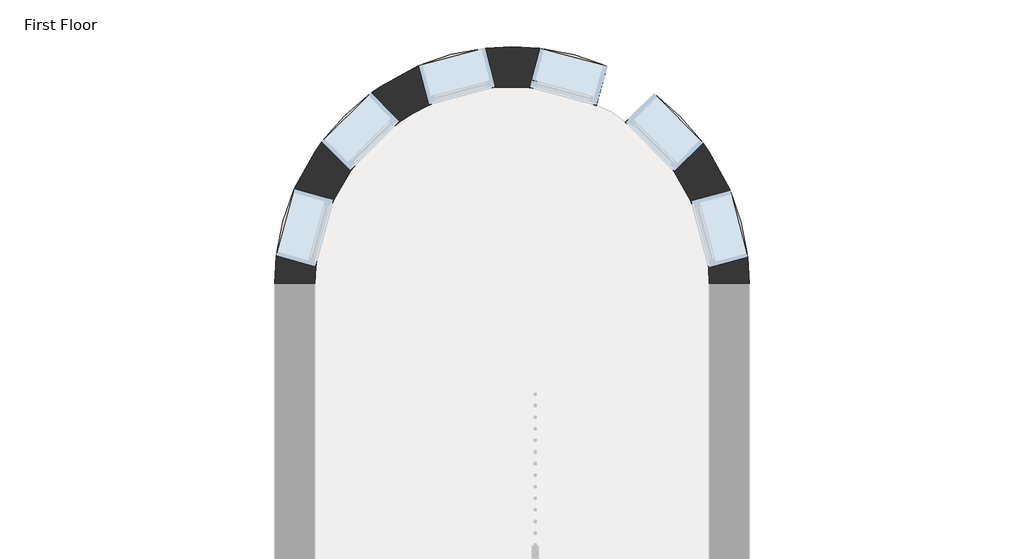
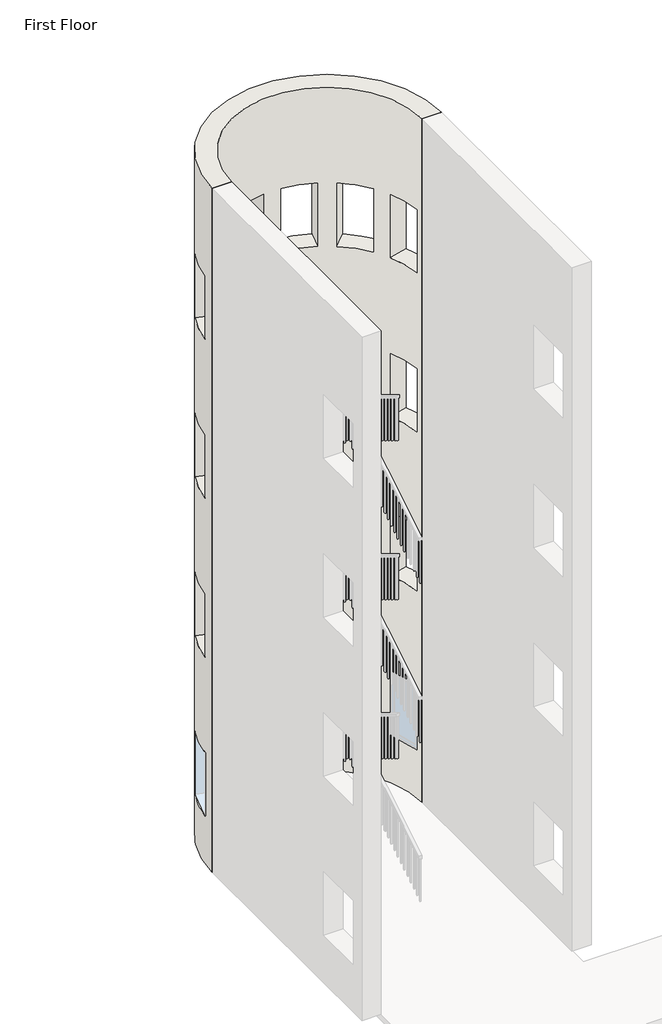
# One storey, part 2 of 5: 1 wall.
"""IFC4 building model written with IfcOpenShell, lengths in millimetres."""

from ifc_helpers import new_model, si_unit, frame, origin, place, context, project, spatial, polyline, circle_curve, element, save
from ifc_brep_helpers import plane_surface, cylinder_surface, revolved_surface, advanced_brep

model = new_model("IFC4")

# Units and contexts
model_context = context("Model", 3, world=origin())
ifc_project = project(units=[si_unit("LENGTHUNIT", "METRE", prefix="MILLI")], contexts=[model_context])

# Site, building, storey
site = spatial("IfcSite", under=ifc_project)
building = spatial("IfcBuilding", under=site)
storey = spatial("IfcBuildingStorey", under=building, Name="First Floor", Elevation=0.0)

# Wall
placement = place(None, origin())
element("IfcWall", 1, ObjectType="Exterior - Brick on Mtl. Stud", at=placement, inside=storey, context=model_context, shape_type="AdvancedBrep", body=[
    advanced_brep(
    [(-4164.4024687, 9592.7758812, 13106.4), (-8326.8274687, 9592.7758812, 13106.4), (-7974.4024687, 9592.7758812, 13106.4), (-4516.8274687, 9592.7758812, 13106.4), (-8326.8274687, 9592.7758812, 0.0), (-4164.4024687, 9592.7758812, 0.0), (-4516.8274687, 9592.7758812, 0.0), (-7974.4024687, 9592.7758812, 0.0), (-8312.3878938, 9837.5107303, 914.4), (-8152.818084, 10425.8555575, 914.4), (-8152.818084, 10425.8555575, 2133.6), (-8312.3878938, 9837.5107303, 2133.6), (-7913.1254012, 10838.1089402, 2133.6), (-7913.1254012, 10838.1089402, 914.4), (-7480.7614786, 11267.8456019, 914.4), (-7480.7614786, 11267.8456019, 2133.6), (-7067.0548348, 11505.0211627, 2133.6), (-7067.0548348, 11505.0211627, 914.4), (-6477.7483633, 11661.0020674, 914.4), (-6477.7483633, 11661.0020674, 2133.6), (-6000.8801197, 11659.5488063, 2133.6), (-6000.8801197, 11659.5488063, 914.4), (-5412.5352924, 11499.9789965, 914.4), (-5412.5352924, 11499.9789965, 2133.6), (-5000.2819097, 11260.2863136, 2133.6), (-5000.2819097, 11260.2863136, 914.4), (-4570.545248, 10827.922391, 914.4), (-4570.545248, 10827.922391, 2133.6), (-4333.3696872, 10414.2157472, 2133.6), (-4333.3696872, 10414.2157472, 914.4), (-4177.3887825, 9824.9092757, 914.4), (-4177.3887825, 9824.9092757, 2133.6), (-4333.3696872, 10414.2157472, 11277.6), (-4333.3696872, 10414.2157472, 10058.4), (-4177.3887825, 9824.9092757, 10058.4), (-4177.3887825, 9824.9092757, 11277.6), (-5000.2819097, 11260.2863136, 11277.6), (-5000.2819097, 11260.2863136, 10058.4), (-4570.545248, 10827.922391, 10058.4), (-4570.545248, 10827.922391, 11277.6), (-6000.8801197, 11659.5488063, 11277.6), (-6000.8801197, 11659.5488063, 10058.4), (-5412.5352924, 11499.9789965, 10058.4), (-5412.5352924, 11499.9789965, 11277.6), (-7067.0548348, 11505.0211627, 11277.6), (-7067.0548348, 11505.0211627, 10058.4), (-6477.7483633, 11661.0020674, 10058.4), (-6477.7483633, 11661.0020674, 11277.6), (-7913.1254012, 10838.1089402, 11277.6), (-7913.1254012, 10838.1089402, 10058.4), (-7480.7614786, 11267.8456019, 10058.4), (-7480.7614786, 11267.8456019, 11277.6), (-8312.3878938, 9837.5107303, 11277.6), (-8312.3878938, 9837.5107303, 10058.4), (-8152.818084, 10425.8555575, 10058.4), (-8152.818084, 10425.8555575, 11277.6), (-4333.3696872, 10414.2157472, 5181.6), (-4333.3696872, 10414.2157472, 3962.4), (-4177.3887825, 9824.9092757, 3962.4), (-4177.3887825, 9824.9092757, 5181.6), (-5000.2819097, 11260.2863136, 5181.6), (-5000.2819097, 11260.2863136, 3962.4), (-4570.545248, 10827.922391, 3962.4), (-4570.545248, 10827.922391, 5181.6), (-6000.8801197, 11659.5488063, 5181.6), (-6000.8801197, 11659.5488063, 3962.4), (-5412.5352924, 11499.9789965, 3962.4), (-5412.5352924, 11499.9789965, 5181.6), (-7067.0548348, 11505.0211627, 5181.6), (-7067.0548348, 11505.0211627, 3962.4), (-6477.7483633, 11661.0020674, 3962.4), (-6477.7483633, 11661.0020674, 5181.6), (-7913.1254012, 10838.1089402, 5181.6), (-7913.1254012, 10838.1089402, 3962.4), (-7480.7614786, 11267.8456019, 3962.4), (-7480.7614786, 11267.8456019, 5181.6), (-8312.3878938, 9837.5107303, 5181.6), (-8312.3878938, 9837.5107303, 3962.4), (-8152.818084, 10425.8555575, 3962.4), (-8152.818084, 10425.8555575, 5181.6), (-4333.3696872, 10414.2157472, 8229.6), (-4333.3696872, 10414.2157472, 7010.4), (-4177.3887825, 9824.9092757, 7010.4), (-4177.3887825, 9824.9092757, 8229.6), (-5000.2819097, 11260.2863136, 8229.6), (-5000.2819097, 11260.2863136, 7010.4), (-4570.545248, 10827.922391, 7010.4), (-4570.545248, 10827.922391, 8229.6), (-6000.8801197, 11659.5488063, 8229.6), (-6000.8801197, 11659.5488063, 7010.4), (-5412.5352924, 11499.9789965, 7010.4), (-5412.5352924, 11499.9789965, 8229.6), (-7067.0548348, 11505.0211627, 8229.6), (-7067.0548348, 11505.0211627, 7010.4), (-6477.7483633, 11661.0020674, 7010.4), (-6477.7483633, 11661.0020674, 8229.6), (-7913.1254012, 10838.1089402, 8229.6), (-7913.1254012, 10838.1089402, 7010.4), (-7480.7614786, 11267.8456019, 7010.4), (-7480.7614786, 11267.8456019, 8229.6), (-8312.3878938, 9837.5107303, 8229.6), (-8312.3878938, 9837.5107303, 7010.4), (-8152.818084, 10425.8555575, 7010.4), (-8152.818084, 10425.8555575, 8229.6), (-7808.2019473, 10332.3893982, 914.4), (-7967.7717571, 9744.0445709, 914.4), (-7967.7717571, 9744.0445709, 2133.6), (-7808.2019473, 10332.3893982, 2133.6), (-7661.4121519, 10584.8568034, 914.4), (-7661.4121519, 10584.8568034, 2133.6), (-7229.0482293, 11014.5934652, 2133.6), (-7229.0482293, 11014.5934652, 914.4), (-6975.6908348, 11159.8417541, 914.4), (-6975.6908348, 11159.8417541, 2133.6), (-6386.3843633, 11315.8226588, 2133.6), (-6386.3843633, 11315.8226588, 914.4), (-6094.346279, 11314.9326695, 914.4), (-6094.346279, 11314.9326695, 2133.6), (-5506.0014517, 11155.3628598, 2133.6), (-5506.0014517, 11155.3628598, 914.4), (-5253.5340465, 11008.5730643, 914.4), (-5253.5340465, 11008.5730643, 2133.6), (-4823.7973847, 10576.2091417, 2133.6), (-4823.7973847, 10576.2091417, 914.4), (-4678.5490959, 10322.8517473, 914.4), (-4678.5490959, 10322.8517473, 2133.6), (-4522.5681912, 9733.5452757, 2133.6), (-4522.5681912, 9733.5452757, 914.4), (-4678.5490959, 10322.8517473, 11277.6), (-4522.5681912, 9733.5452757, 11277.6), (-4522.5681912, 9733.5452757, 10058.4), (-4678.5490959, 10322.8517473, 10058.4), (-5253.5340465, 11008.5730643, 11277.6), (-4823.7973847, 10576.2091417, 11277.6), (-4823.7973847, 10576.2091417, 10058.4), (-5253.5340465, 11008.5730643, 10058.4), (-6094.346279, 11314.9326695, 11277.6), (-5506.0014517, 11155.3628598, 11277.6), (-5506.0014517, 11155.3628598, 10058.4), (-6094.346279, 11314.9326695, 10058.4), (-6975.6908348, 11159.8417541, 11277.6), (-6386.3843633, 11315.8226588, 11277.6), (-6386.3843633, 11315.8226588, 10058.4), (-6975.6908348, 11159.8417541, 10058.4), (-7661.4121519, 10584.8568034, 11277.6), (-7229.0482293, 11014.5934652, 11277.6), (-7229.0482293, 11014.5934652, 10058.4), (-7661.4121519, 10584.8568034, 10058.4), (-7967.7717571, 9744.0445709, 11277.6), (-7808.2019473, 10332.3893982, 11277.6), (-7808.2019473, 10332.3893982, 10058.4), (-7967.7717571, 9744.0445709, 10058.4), (-4678.5490959, 10322.8517473, 5181.6), (-4522.5681912, 9733.5452757, 5181.6), (-4522.5681912, 9733.5452757, 3962.4), (-4678.5490959, 10322.8517473, 3962.4), (-5253.5340465, 11008.5730643, 5181.6), (-4823.7973847, 10576.2091417, 5181.6), (-4823.7973847, 10576.2091417, 3962.4), (-5253.5340465, 11008.5730643, 3962.4), (-6094.346279, 11314.9326695, 5181.6), (-5506.0014517, 11155.3628598, 5181.6), (-5506.0014517, 11155.3628598, 3962.4), (-6094.346279, 11314.9326695, 3962.4), (-6975.6908348, 11159.8417541, 5181.6), (-6386.3843633, 11315.8226588, 5181.6), (-6386.3843633, 11315.8226588, 3962.4), (-6975.6908348, 11159.8417541, 3962.4), (-7661.4121519, 10584.8568034, 5181.6), (-7229.0482293, 11014.5934652, 5181.6), (-7229.0482293, 11014.5934652, 3962.4), (-7661.4121519, 10584.8568034, 3962.4), (-7967.7717571, 9744.0445709, 5181.6), (-7808.2019473, 10332.3893982, 5181.6), (-7808.2019473, 10332.3893982, 3962.4), (-7967.7717571, 9744.0445709, 3962.4), (-4678.5490959, 10322.8517473, 8229.6), (-4522.5681912, 9733.5452757, 8229.6), (-4522.5681912, 9733.5452757, 7010.4), (-4678.5490959, 10322.8517473, 7010.4), (-5253.5340465, 11008.5730643, 8229.6), (-4823.7973847, 10576.2091417, 8229.6), (-4823.7973847, 10576.2091417, 7010.4), (-5253.5340465, 11008.5730643, 7010.4), (-6094.346279, 11314.9326695, 8229.6), (-5506.0014517, 11155.3628598, 8229.6), (-5506.0014517, 11155.3628598, 7010.4), (-6094.346279, 11314.9326695, 7010.4), (-6975.6908348, 11159.8417541, 8229.6), (-6386.3843633, 11315.8226588, 8229.6), (-6386.3843633, 11315.8226588, 7010.4), (-6975.6908348, 11159.8417541, 7010.4), (-7661.4121519, 10584.8568034, 8229.6), (-7229.0482293, 11014.5934652, 8229.6), (-7229.0482293, 11014.5934652, 7010.4), (-7661.4121519, 10584.8568034, 7010.4), (-7967.7717571, 9744.0445709, 8229.6), (-7808.2019473, 10332.3893982, 8229.6), (-7808.2019473, 10332.3893982, 7010.4), (-7967.7717571, 9744.0445709, 7010.4)],
    [
        (0, 1, circle_curve(frame((-6245.6149687, 9592.7758812, 13106.4), z_axis=(0.0, 0.0, 1.0), x_axis=(1.0, 0.0, 0.0)), 2081.2125)),
        (1, 2),
        (2, 3, circle_curve(frame((-6245.6149687, 9592.7758812, 13106.4), z_axis=(0.0, 0.0, -1.0), x_axis=(1.0, 0.0, 0.0)), 1728.7875)),
        (3, 0),
        (4, 5, circle_curve(frame((-6245.6149687, 9592.7758812, 0.0), z_axis=(0.0, 0.0, -1.0), x_axis=(1.0, 0.0, 0.0)), 2081.2125)),
        (5, 6),
        (6, 7, circle_curve(frame((-6245.6149687, 9592.7758812, 0.0), z_axis=(0.0, 0.0, 1.0), x_axis=(1.0, 0.0, 0.0)), 1728.7875)),
        (7, 4),
        (0, 5),
        (4, 1),
        (8, 9, circle_curve(frame((-6245.6149687, 9592.7758812, 914.4), z_axis=(0.0, 0.0, -1.0), x_axis=(1.0, 0.0, 0.0)), 2081.2125)),
        (9, 10),
        (10, 11, circle_curve(frame((-6245.6149687, 9592.7758812, 2133.6), z_axis=(0.0, 0.0, 1.0), x_axis=(1.0, 0.0, 0.0)), 2081.2125)),
        (11, 8),
        (12, 13),
        (13, 14, circle_curve(frame((-6245.6149687, 9592.7758812, 914.4), z_axis=(0.0, 0.0, -1.0), x_axis=(1.0, 0.0, 0.0)), 2081.2125)),
        (14, 15),
        (15, 12, circle_curve(frame((-6245.6149687, 9592.7758812, 2133.6), z_axis=(0.0, 0.0, 1.0), x_axis=(1.0, 0.0, 0.0)), 2081.2125)),
        (16, 17),
        (17, 18, circle_curve(frame((-6245.6149687, 9592.7758812, 914.4), z_axis=(0.0, 0.0, -1.0), x_axis=(1.0, 0.0, 0.0)), 2081.2125)),
        (18, 19),
        (19, 16, circle_curve(frame((-6245.6149687, 9592.7758812, 2133.6), z_axis=(0.0, 0.0, 1.0), x_axis=(1.0, 0.0, 0.0)), 2081.2125)),
        (20, 21),
        (21, 22, circle_curve(frame((-6245.6149687, 9592.7758812, 914.4), z_axis=(0.0, 0.0, -1.0), x_axis=(1.0, 0.0, 0.0)), 2081.2125)),
        (22, 23),
        (23, 20, circle_curve(frame((-6245.6149687, 9592.7758812, 2133.6), z_axis=(0.0, 0.0, 1.0), x_axis=(1.0, 0.0, 0.0)), 2081.2125)),
        (24, 25),
        (25, 26, circle_curve(frame((-6245.6149687, 9592.7758812, 914.4), z_axis=(0.0, 0.0, -1.0), x_axis=(1.0, 0.0, 0.0)), 2081.2125)),
        (26, 27),
        (27, 24, circle_curve(frame((-6245.6149687, 9592.7758812, 2133.6), z_axis=(0.0, 0.0, 1.0), x_axis=(1.0, 0.0, 0.0)), 2081.2125)),
        (28, 29),
        (29, 30, circle_curve(frame((-6245.6149687, 9592.7758812, 914.4), z_axis=(0.0, 0.0, -1.0), x_axis=(1.0, 0.0, 0.0)), 2081.2125)),
        (30, 31),
        (31, 28, circle_curve(frame((-6245.6149687, 9592.7758812, 2133.6), z_axis=(0.0, 0.0, 1.0), x_axis=(1.0, 0.0, 0.0)), 2081.2125)),
        (32, 33),
        (33, 34, circle_curve(frame((-6245.6149687, 9592.7758812, 10058.4), z_axis=(0.0, 0.0, -1.0), x_axis=(1.0, 0.0, 0.0)), 2081.2125)),
        (34, 35),
        (35, 32, circle_curve(frame((-6245.6149687, 9592.7758812, 11277.6), z_axis=(0.0, 0.0, 1.0), x_axis=(1.0, 0.0, 0.0)), 2081.2125)),
        (36, 37),
        (37, 38, circle_curve(frame((-6245.6149687, 9592.7758812, 10058.4), z_axis=(0.0, 0.0, -1.0), x_axis=(1.0, 0.0, 0.0)), 2081.2125)),
        (38, 39),
        (39, 36, circle_curve(frame((-6245.6149687, 9592.7758812, 11277.6), z_axis=(0.0, 0.0, 1.0), x_axis=(1.0, 0.0, 0.0)), 2081.2125)),
        (40, 41),
        (41, 42, circle_curve(frame((-6245.6149687, 9592.7758812, 10058.4), z_axis=(0.0, 0.0, -1.0), x_axis=(1.0, 0.0, 0.0)), 2081.2125)),
        (42, 43),
        (43, 40, circle_curve(frame((-6245.6149687, 9592.7758812, 11277.6), z_axis=(0.0, 0.0, 1.0), x_axis=(1.0, 0.0, 0.0)), 2081.2125)),
        (44, 45),
        (45, 46, circle_curve(frame((-6245.6149687, 9592.7758812, 10058.4), z_axis=(0.0, 0.0, -1.0), x_axis=(1.0, 0.0, 0.0)), 2081.2125)),
        (46, 47),
        (47, 44, circle_curve(frame((-6245.6149687, 9592.7758812, 11277.6), z_axis=(0.0, 0.0, 1.0), x_axis=(1.0, 0.0, 0.0)), 2081.2125)),
        (48, 49),
        (49, 50, circle_curve(frame((-6245.6149687, 9592.7758812, 10058.4), z_axis=(0.0, 0.0, -1.0), x_axis=(1.0, 0.0, 0.0)), 2081.2125)),
        (50, 51),
        (51, 48, circle_curve(frame((-6245.6149687, 9592.7758812, 11277.6), z_axis=(0.0, 0.0, 1.0), x_axis=(1.0, 0.0, 0.0)), 2081.2125)),
        (52, 53),
        (53, 54, circle_curve(frame((-6245.6149687, 9592.7758812, 10058.4), z_axis=(0.0, 0.0, -1.0), x_axis=(1.0, 0.0, 0.0)), 2081.2125)),
        (54, 55),
        (55, 52, circle_curve(frame((-6245.6149687, 9592.7758812, 11277.6), z_axis=(0.0, 0.0, 1.0), x_axis=(1.0, 0.0, 0.0)), 2081.2125)),
        (56, 57),
        (57, 58, circle_curve(frame((-6245.6149687, 9592.7758812, 3962.4), z_axis=(0.0, 0.0, -1.0), x_axis=(1.0, 0.0, 0.0)), 2081.2125)),
        (58, 59),
        (59, 56, circle_curve(frame((-6245.6149687, 9592.7758812, 5181.6), z_axis=(0.0, 0.0, 1.0), x_axis=(1.0, 0.0, 0.0)), 2081.2125)),
        (60, 61),
        (61, 62, circle_curve(frame((-6245.6149687, 9592.7758812, 3962.4), z_axis=(0.0, 0.0, -1.0), x_axis=(1.0, 0.0, 0.0)), 2081.2125)),
        (62, 63),
        (63, 60, circle_curve(frame((-6245.6149687, 9592.7758812, 5181.6), z_axis=(0.0, 0.0, 1.0), x_axis=(1.0, 0.0, 0.0)), 2081.2125)),
        (64, 65),
        (65, 66, circle_curve(frame((-6245.6149687, 9592.7758812, 3962.4), z_axis=(0.0, 0.0, -1.0), x_axis=(1.0, 0.0, 0.0)), 2081.2125)),
        (66, 67),
        (67, 64, circle_curve(frame((-6245.6149687, 9592.7758812, 5181.6), z_axis=(0.0, 0.0, 1.0), x_axis=(1.0, 0.0, 0.0)), 2081.2125)),
        (68, 69),
        (69, 70, circle_curve(frame((-6245.6149687, 9592.7758812, 3962.4), z_axis=(0.0, 0.0, -1.0), x_axis=(1.0, 0.0, 0.0)), 2081.2125)),
        (70, 71),
        (71, 68, circle_curve(frame((-6245.6149687, 9592.7758812, 5181.6), z_axis=(0.0, 0.0, 1.0), x_axis=(1.0, 0.0, 0.0)), 2081.2125)),
        (72, 73),
        (73, 74, circle_curve(frame((-6245.6149687, 9592.7758812, 3962.4), z_axis=(0.0, 0.0, -1.0), x_axis=(1.0, 0.0, 0.0)), 2081.2125)),
        (74, 75),
        (75, 72, circle_curve(frame((-6245.6149687, 9592.7758812, 5181.6), z_axis=(0.0, 0.0, 1.0), x_axis=(1.0, 0.0, 0.0)), 2081.2125)),
        (76, 77),
        (77, 78, circle_curve(frame((-6245.6149687, 9592.7758812, 3962.4), z_axis=(0.0, 0.0, -1.0), x_axis=(1.0, 0.0, 0.0)), 2081.2125)),
        (78, 79),
        (79, 76, circle_curve(frame((-6245.6149687, 9592.7758812, 5181.6), z_axis=(0.0, 0.0, 1.0), x_axis=(1.0, 0.0, 0.0)), 2081.2125)),
        (80, 81),
        (81, 82, circle_curve(frame((-6245.6149687, 9592.7758812, 7010.4), z_axis=(0.0, 0.0, -1.0), x_axis=(1.0, 0.0, 0.0)), 2081.2125)),
        (82, 83),
        (83, 80, circle_curve(frame((-6245.6149687, 9592.7758812, 8229.6), z_axis=(0.0, 0.0, 1.0), x_axis=(1.0, 0.0, 0.0)), 2081.2125)),
        (84, 85),
        (85, 86, circle_curve(frame((-6245.6149687, 9592.7758812, 7010.4), z_axis=(0.0, 0.0, -1.0), x_axis=(1.0, 0.0, 0.0)), 2081.2125)),
        (86, 87),
        (87, 84, circle_curve(frame((-6245.6149687, 9592.7758812, 8229.6), z_axis=(0.0, 0.0, 1.0), x_axis=(1.0, 0.0, 0.0)), 2081.2125)),
        (88, 89),
        (89, 90, circle_curve(frame((-6245.6149687, 9592.7758812, 7010.4), z_axis=(0.0, 0.0, -1.0), x_axis=(1.0, 0.0, 0.0)), 2081.2125)),
        (90, 91),
        (91, 88, circle_curve(frame((-6245.6149687, 9592.7758812, 8229.6), z_axis=(0.0, 0.0, 1.0), x_axis=(1.0, 0.0, 0.0)), 2081.2125)),
        (92, 93),
        (93, 94, circle_curve(frame((-6245.6149687, 9592.7758812, 7010.4), z_axis=(0.0, 0.0, -1.0), x_axis=(1.0, 0.0, 0.0)), 2081.2125)),
        (94, 95),
        (95, 92, circle_curve(frame((-6245.6149687, 9592.7758812, 8229.6), z_axis=(0.0, 0.0, 1.0), x_axis=(1.0, 0.0, 0.0)), 2081.2125)),
        (96, 97),
        (97, 98, circle_curve(frame((-6245.6149687, 9592.7758812, 7010.4), z_axis=(0.0, 0.0, -1.0), x_axis=(1.0, 0.0, 0.0)), 2081.2125)),
        (98, 99),
        (99, 96, circle_curve(frame((-6245.6149687, 9592.7758812, 8229.6), z_axis=(0.0, 0.0, 1.0), x_axis=(1.0, 0.0, 0.0)), 2081.2125)),
        (100, 101),
        (101, 102, circle_curve(frame((-6245.6149687, 9592.7758812, 7010.4), z_axis=(0.0, 0.0, -1.0), x_axis=(1.0, 0.0, 0.0)), 2081.2125)),
        (102, 103),
        (103, 100, circle_curve(frame((-6245.6149687, 9592.7758812, 8229.6), z_axis=(0.0, 0.0, 1.0), x_axis=(1.0, 0.0, 0.0)), 2081.2125)),
        (7, 2),
        (6, 3),
        (104, 105, circle_curve(frame((-6245.6149687, 9592.7758812, 914.4), z_axis=(0.0, 0.0, 1.0), x_axis=(1.0, 0.0, 0.0)), 1728.7875)),
        (105, 106),
        (106, 107, circle_curve(frame((-6245.6149687, 9592.7758812, 2133.6), z_axis=(0.0, 0.0, -1.0), x_axis=(1.0, 0.0, 0.0)), 1728.7875)),
        (107, 104),
        (108, 109),
        (109, 110, circle_curve(frame((-6245.6149687, 9592.7758812, 2133.6), z_axis=(0.0, 0.0, -1.0), x_axis=(1.0, 0.0, 0.0)), 1728.7875)),
        (110, 111),
        (111, 108, circle_curve(frame((-6245.6149687, 9592.7758812, 914.4), z_axis=(0.0, 0.0, 1.0), x_axis=(1.0, 0.0, 0.0)), 1728.7875)),
        (112, 113),
        (113, 114, circle_curve(frame((-6245.6149687, 9592.7758812, 2133.6), z_axis=(0.0, 0.0, -1.0), x_axis=(1.0, 0.0, 0.0)), 1728.7875)),
        (114, 115),
        (115, 112, circle_curve(frame((-6245.6149687, 9592.7758812, 914.4), z_axis=(0.0, 0.0, 1.0), x_axis=(1.0, 0.0, 0.0)), 1728.7875)),
        (116, 117),
        (117, 118, circle_curve(frame((-6245.6149687, 9592.7758812, 2133.6), z_axis=(0.0, 0.0, -1.0), x_axis=(1.0, 0.0, 0.0)), 1728.7875)),
        (118, 119),
        (119, 116, circle_curve(frame((-6245.6149687, 9592.7758812, 914.4), z_axis=(0.0, 0.0, 1.0), x_axis=(1.0, 0.0, 0.0)), 1728.7875)),
        (120, 121),
        (121, 122, circle_curve(frame((-6245.6149687, 9592.7758812, 2133.6), z_axis=(0.0, 0.0, -1.0), x_axis=(1.0, 0.0, 0.0)), 1728.7875)),
        (122, 123),
        (123, 120, circle_curve(frame((-6245.6149687, 9592.7758812, 914.4), z_axis=(0.0, 0.0, 1.0), x_axis=(1.0, 0.0, 0.0)), 1728.7875)),
        (124, 125),
        (125, 126, circle_curve(frame((-6245.6149687, 9592.7758812, 2133.6), z_axis=(0.0, 0.0, -1.0), x_axis=(1.0, 0.0, 0.0)), 1728.7875)),
        (126, 127),
        (127, 124, circle_curve(frame((-6245.6149687, 9592.7758812, 914.4), z_axis=(0.0, 0.0, 1.0), x_axis=(1.0, 0.0, 0.0)), 1728.7875)),
        (128, 129, circle_curve(frame((-6245.6149687, 9592.7758812, 11277.6), z_axis=(0.0, 0.0, -1.0), x_axis=(1.0, 0.0, 0.0)), 1728.7875)),
        (129, 130),
        (130, 131, circle_curve(frame((-6245.6149687, 9592.7758812, 10058.4), z_axis=(0.0, 0.0, 1.0), x_axis=(1.0, 0.0, 0.0)), 1728.7875)),
        (131, 128),
        (132, 133, circle_curve(frame((-6245.6149687, 9592.7758812, 11277.6), z_axis=(0.0, 0.0, -1.0), x_axis=(1.0, 0.0, 0.0)), 1728.7875)),
        (133, 134),
        (134, 135, circle_curve(frame((-6245.6149687, 9592.7758812, 10058.4), z_axis=(0.0, 0.0, 1.0), x_axis=(1.0, 0.0, 0.0)), 1728.7875)),
        (135, 132),
        (136, 137, circle_curve(frame((-6245.6149687, 9592.7758812, 11277.6), z_axis=(0.0, 0.0, -1.0), x_axis=(1.0, 0.0, 0.0)), 1728.7875)),
        (137, 138),
        (138, 139, circle_curve(frame((-6245.6149687, 9592.7758812, 10058.4), z_axis=(0.0, 0.0, 1.0), x_axis=(1.0, 0.0, 0.0)), 1728.7875)),
        (139, 136),
        (140, 141, circle_curve(frame((-6245.6149687, 9592.7758812, 11277.6), z_axis=(0.0, 0.0, -1.0), x_axis=(1.0, 0.0, 0.0)), 1728.7875)),
        (141, 142),
        (142, 143, circle_curve(frame((-6245.6149687, 9592.7758812, 10058.4), z_axis=(0.0, 0.0, 1.0), x_axis=(1.0, 0.0, 0.0)), 1728.7875)),
        (143, 140),
        (144, 145, circle_curve(frame((-6245.6149687, 9592.7758812, 11277.6), z_axis=(0.0, 0.0, -1.0), x_axis=(1.0, 0.0, 0.0)), 1728.7875)),
        (145, 146),
        (146, 147, circle_curve(frame((-6245.6149687, 9592.7758812, 10058.4), z_axis=(0.0, 0.0, 1.0), x_axis=(1.0, 0.0, 0.0)), 1728.7875)),
        (147, 144),
        (148, 149, circle_curve(frame((-6245.6149687, 9592.7758812, 11277.6), z_axis=(0.0, 0.0, -1.0), x_axis=(1.0, 0.0, 0.0)), 1728.7875)),
        (149, 150),
        (150, 151, circle_curve(frame((-6245.6149687, 9592.7758812, 10058.4), z_axis=(0.0, 0.0, 1.0), x_axis=(1.0, 0.0, 0.0)), 1728.7875)),
        (151, 148),
        (152, 153, circle_curve(frame((-6245.6149687, 9592.7758812, 5181.6), z_axis=(0.0, 0.0, -1.0), x_axis=(1.0, 0.0, 0.0)), 1728.7875)),
        (153, 154),
        (154, 155, circle_curve(frame((-6245.6149687, 9592.7758812, 3962.4), z_axis=(0.0, 0.0, 1.0), x_axis=(1.0, 0.0, 0.0)), 1728.7875)),
        (155, 152),
        (156, 157, circle_curve(frame((-6245.6149687, 9592.7758812, 5181.6), z_axis=(0.0, 0.0, -1.0), x_axis=(1.0, 0.0, 0.0)), 1728.7875)),
        (157, 158),
        (158, 159, circle_curve(frame((-6245.6149687, 9592.7758812, 3962.4), z_axis=(0.0, 0.0, 1.0), x_axis=(1.0, 0.0, 0.0)), 1728.7875)),
        (159, 156),
        (160, 161, circle_curve(frame((-6245.6149687, 9592.7758812, 5181.6), z_axis=(0.0, 0.0, -1.0), x_axis=(1.0, 0.0, 0.0)), 1728.7875)),
        (161, 162),
        (162, 163, circle_curve(frame((-6245.6149687, 9592.7758812, 3962.4), z_axis=(0.0, 0.0, 1.0), x_axis=(1.0, 0.0, 0.0)), 1728.7875)),
        (163, 160),
        (164, 165, circle_curve(frame((-6245.6149687, 9592.7758812, 5181.6), z_axis=(0.0, 0.0, -1.0), x_axis=(1.0, 0.0, 0.0)), 1728.7875)),
        (165, 166),
        (166, 167, circle_curve(frame((-6245.6149687, 9592.7758812, 3962.4), z_axis=(0.0, 0.0, 1.0), x_axis=(1.0, 0.0, 0.0)), 1728.7875)),
        (167, 164),
        (168, 169, circle_curve(frame((-6245.6149687, 9592.7758812, 5181.6), z_axis=(0.0, 0.0, -1.0), x_axis=(1.0, 0.0, 0.0)), 1728.7875)),
        (169, 170),
        (170, 171, circle_curve(frame((-6245.6149687, 9592.7758812, 3962.4), z_axis=(0.0, 0.0, 1.0), x_axis=(1.0, 0.0, 0.0)), 1728.7875)),
        (171, 168),
        (172, 173, circle_curve(frame((-6245.6149687, 9592.7758812, 5181.6), z_axis=(0.0, 0.0, -1.0), x_axis=(1.0, 0.0, 0.0)), 1728.7875)),
        (173, 174),
        (174, 175, circle_curve(frame((-6245.6149687, 9592.7758812, 3962.4), z_axis=(0.0, 0.0, 1.0), x_axis=(1.0, 0.0, 0.0)), 1728.7875)),
        (175, 172),
        (176, 177, circle_curve(frame((-6245.6149687, 9592.7758812, 8229.6), z_axis=(0.0, 0.0, -1.0), x_axis=(1.0, 0.0, 0.0)), 1728.7875)),
        (177, 178),
        (178, 179, circle_curve(frame((-6245.6149687, 9592.7758812, 7010.4), z_axis=(0.0, 0.0, 1.0), x_axis=(1.0, 0.0, 0.0)), 1728.7875)),
        (179, 176),
        (180, 181, circle_curve(frame((-6245.6149687, 9592.7758812, 8229.6), z_axis=(0.0, 0.0, -1.0), x_axis=(1.0, 0.0, 0.0)), 1728.7875)),
        (181, 182),
        (182, 183, circle_curve(frame((-6245.6149687, 9592.7758812, 7010.4), z_axis=(0.0, 0.0, 1.0), x_axis=(1.0, 0.0, 0.0)), 1728.7875)),
        (183, 180),
        (184, 185, circle_curve(frame((-6245.6149687, 9592.7758812, 8229.6), z_axis=(0.0, 0.0, -1.0), x_axis=(1.0, 0.0, 0.0)), 1728.7875)),
        (185, 186),
        (186, 187, circle_curve(frame((-6245.6149687, 9592.7758812, 7010.4), z_axis=(0.0, 0.0, 1.0), x_axis=(1.0, 0.0, 0.0)), 1728.7875)),
        (187, 184),
        (188, 189, circle_curve(frame((-6245.6149687, 9592.7758812, 8229.6), z_axis=(0.0, 0.0, -1.0), x_axis=(1.0, 0.0, 0.0)), 1728.7875)),
        (189, 190),
        (190, 191, circle_curve(frame((-6245.6149687, 9592.7758812, 7010.4), z_axis=(0.0, 0.0, 1.0), x_axis=(1.0, 0.0, 0.0)), 1728.7875)),
        (191, 188),
        (192, 193, circle_curve(frame((-6245.6149687, 9592.7758812, 8229.6), z_axis=(0.0, 0.0, -1.0), x_axis=(1.0, 0.0, 0.0)), 1728.7875)),
        (193, 194),
        (194, 195, circle_curve(frame((-6245.6149687, 9592.7758812, 7010.4), z_axis=(0.0, 0.0, 1.0), x_axis=(1.0, 0.0, 0.0)), 1728.7875)),
        (195, 192),
        (196, 197, circle_curve(frame((-6245.6149687, 9592.7758812, 8229.6), z_axis=(0.0, 0.0, -1.0), x_axis=(1.0, 0.0, 0.0)), 1728.7875)),
        (197, 198),
        (198, 199, circle_curve(frame((-6245.6149687, 9592.7758812, 7010.4), z_axis=(0.0, 0.0, 1.0), x_axis=(1.0, 0.0, 0.0)), 1728.7875)),
        (199, 196),
        (8, 105),
        (104, 9),
        (107, 10),
        (106, 11),
        (12, 109),
        (108, 13),
        (111, 14),
        (110, 15),
        (16, 113),
        (112, 17),
        (115, 18),
        (114, 19),
        (20, 117),
        (116, 21),
        (119, 22),
        (118, 23),
        (24, 121),
        (120, 25),
        (123, 26),
        (122, 27),
        (28, 125),
        (124, 29),
        (127, 30),
        (126, 31),
        (32, 128),
        (131, 33),
        (130, 34),
        (129, 35),
        (36, 132),
        (135, 37),
        (134, 38),
        (133, 39),
        (40, 136),
        (139, 41),
        (138, 42),
        (137, 43),
        (44, 140),
        (143, 45),
        (142, 46),
        (141, 47),
        (48, 144),
        (147, 49),
        (146, 50),
        (145, 51),
        (52, 148),
        (151, 53),
        (150, 54),
        (149, 55),
        (56, 152),
        (155, 57),
        (154, 58),
        (153, 59),
        (60, 156),
        (159, 61),
        (158, 62),
        (157, 63),
        (64, 160),
        (163, 65),
        (162, 66),
        (161, 67),
        (68, 164),
        (167, 69),
        (166, 70),
        (165, 71),
        (72, 168),
        (171, 73),
        (170, 74),
        (169, 75),
        (76, 172),
        (175, 77),
        (174, 78),
        (173, 79),
        (80, 176),
        (179, 81),
        (178, 82),
        (177, 83),
        (84, 180),
        (183, 85),
        (182, 86),
        (181, 87),
        (88, 184),
        (187, 89),
        (186, 90),
        (185, 91),
        (92, 188),
        (191, 93),
        (190, 94),
        (189, 95),
        (96, 192),
        (195, 97),
        (194, 98),
        (193, 99),
        (100, 196),
        (199, 101),
        (198, 102),
        (197, 103),
    ],
    [
        plane_surface(frame((-4164.4024687, 9592.7758812, 13106.4), z_axis=(0.0, 0.0, 1.0), x_axis=(0.0, 1.0, 0.0))),
        plane_surface(frame((-4164.4024687, 9592.7758812, 0.0), z_axis=(0.0, 0.0, -1.0), x_axis=(0.0, -1.0, 0.0))),
        cylinder_surface(frame((-6245.6149687, 9592.7758812, 0.0), z_axis=(0.0, 0.0, 1.0), x_axis=(1.0, 0.0, 0.0)), 2081.2125),
        plane_surface(frame((-8326.8274687, 9592.7758812, 13106.4), z_axis=(0.0, -1.0, 0.0), x_axis=(0.0, 0.0, -1.0))),
        revolved_surface(polyline([(-4516.827468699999, 9592.7758812, 0.0), (-4516.827468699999, 9592.7758812, 13106.4)]), (-6245.6149687, 9592.7758812, 0.0), (0.0, 0.0, -1.0)),
        plane_surface(frame((-4516.8274687, 9592.7758812, 13106.4), z_axis=(0.0, -1.0, 0.0), x_axis=(0.0, 0.0, -1.0))),
        plane_surface(frame((-6841.5258256, 9438.5862058, 914.4), z_axis=(0.0, 0.0, 1.0000000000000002), x_axis=(-0.9651325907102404, 0.26176149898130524, 0.0))),
        plane_surface(frame((-6681.9560158, 10026.9310331, 914.4), z_axis=(-0.2617614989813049, -0.9651325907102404, 0.0), x_axis=(-0.9651325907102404, 0.2617614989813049, 0.0))),
        plane_surface(frame((-6681.9560158, 10026.9310331, 2133.6), z_axis=(0.0, 0.0, -1.0), x_axis=(-0.9651325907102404, 0.2617614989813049, 0.0))),
        plane_surface(frame((-6841.5258256, 9438.5862058, 2133.6), z_axis=(0.26176149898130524, 0.9651325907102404, 0.0), x_axis=(-0.9651325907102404, 0.26176149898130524, 0.0))),
        plane_surface(frame((-6838.7837468, 9757.1991337, 2133.6), z_axis=(0.7092584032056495, 0.70494859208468, 0.0), x_axis=(-0.70494859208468, 0.7092584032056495, 0.0))),
        plane_surface(frame((-6838.7837468, 9757.1991337, 914.4), z_axis=(0.0, 0.0, 1.0), x_axis=(-0.7049485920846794, 0.7092584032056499, 0.0))),
        plane_surface(frame((-6406.4198242, 10186.9357955, 914.4), z_axis=(-0.7092584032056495, -0.70494859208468, 0.0), x_axis=(-0.70494859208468, 0.7092584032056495, 0.0))),
        plane_surface(frame((-6406.4198242, 10186.9357955, 2133.6), z_axis=(0.0, 0.0, -1.0), x_axis=(-0.70494859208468, 0.7092584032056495, 0.0))),
        plane_surface(frame((-7067.0548348, 11505.0211627, 2133.6), z_axis=(0.966710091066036, 0.2558741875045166, 0.0), x_axis=(0.2558741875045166, -0.966710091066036, 0.0))),
        plane_surface(frame((-7067.0548348, 11505.0211627, 914.4), z_axis=(0.0, 0.0, 1.0000000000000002), x_axis=(0.2558741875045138, -0.9667100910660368, 0.0))),
        plane_surface(frame((-6477.7483633, 11661.0020674, 914.4), z_axis=(-0.9667100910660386, -0.2558741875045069, 0.0), x_axis=(0.2558741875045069, -0.9667100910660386, 0.0))),
        plane_surface(frame((-6477.7483633, 11661.0020674, 2133.6), z_axis=(0.0, 0.0, -1.0000000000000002), x_axis=(0.2558741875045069, -0.9667100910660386, 0.0))),
        plane_surface(frame((-6000.8801197, 11659.5488063, 2133.6), z_axis=(0.9651325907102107, -0.2617614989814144, 0.0), x_axis=(-0.2617614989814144, -0.9651325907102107, 0.0))),
        plane_surface(frame((-6000.8801197, 11659.5488063, 914.4), z_axis=(0.0, 0.0, 1.0000000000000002), x_axis=(-0.26176149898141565, -0.9651325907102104, 0.0))),
        plane_surface(frame((-5412.5352924, 11499.9789965, 914.4), z_axis=(-0.9651325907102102, 0.26176149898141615, 0.0), x_axis=(-0.26176149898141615, -0.9651325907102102, 0.0))),
        plane_surface(frame((-5412.5352924, 11499.9789965, 2133.6), z_axis=(0.0, 0.0, -1.0), x_axis=(-0.26176149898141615, -0.9651325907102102, 0.0))),
        plane_surface(frame((-5000.2819097, 11260.2863136, 2133.6), z_axis=(0.7049485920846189, -0.7092584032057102, 0.0), x_axis=(-0.7092584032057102, -0.7049485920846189, 0.0))),
        plane_surface(frame((-5000.2819097, 11260.2863136, 914.4), z_axis=(0.0, 0.0, 1.0000000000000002), x_axis=(-0.7092584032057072, -0.7049485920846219, 0.0))),
        plane_surface(frame((-4570.545248, 10827.922391, 914.4), z_axis=(-0.7049485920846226, 0.7092584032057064, 0.0), x_axis=(-0.7092584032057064, -0.7049485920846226, 0.0))),
        plane_surface(frame((-4570.545248, 10827.922391, 2133.6), z_axis=(0.0, 0.0, -1.0), x_axis=(-0.7092584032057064, -0.7049485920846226, 0.0))),
        plane_surface(frame((-4333.3696872, 10414.2157472, 2133.6), z_axis=(0.2558741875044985, -0.9667100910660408, 0.0), x_axis=(-0.9667100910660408, -0.2558741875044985, 0.0))),
        plane_surface(frame((-4333.3696872, 10414.2157472, 914.4), z_axis=(0.0, 0.0, 1.0), x_axis=(-0.9667100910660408, -0.2558741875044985, 0.0))),
        plane_surface(frame((-4177.3887825, 9824.9092757, 914.4), z_axis=(-0.2558741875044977, 0.966710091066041, 0.0), x_axis=(-0.966710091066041, -0.2558741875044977, 0.0))),
        plane_surface(frame((-4177.3887825, 9824.9092757, 2133.6), z_axis=(0.0, 0.0, -1.0), x_axis=(-0.966710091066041, -0.2558741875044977, 0.0))),
        plane_surface(frame((-4333.3696872, 10414.2157472, 11277.6), z_axis=(0.2558741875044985, -0.9667100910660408, 0.0), x_axis=(-0.9667100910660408, -0.2558741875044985, 0.0))),
        plane_surface(frame((-4333.3696872, 10414.2157472, 10058.4), z_axis=(0.0, 0.0, 1.0), x_axis=(-0.9667100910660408, -0.2558741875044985, 0.0))),
        plane_surface(frame((-4177.3887825, 9824.9092757, 10058.4), z_axis=(-0.2558741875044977, 0.966710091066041, 0.0), x_axis=(-0.966710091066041, -0.2558741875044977, 0.0))),
        plane_surface(frame((-4177.3887825, 9824.9092757, 11277.6), z_axis=(0.0, 0.0, -1.0), x_axis=(-0.966710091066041, -0.2558741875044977, 0.0))),
        plane_surface(frame((-5000.2819097, 11260.2863136, 11277.6), z_axis=(0.7049485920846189, -0.7092584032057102, 0.0), x_axis=(-0.7092584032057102, -0.7049485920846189, 0.0))),
        plane_surface(frame((-5000.2819097, 11260.2863136, 10058.4), z_axis=(0.0, 0.0, 1.0000000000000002), x_axis=(-0.7092584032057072, -0.7049485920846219, 0.0))),
        plane_surface(frame((-4570.545248, 10827.922391, 10058.4), z_axis=(-0.7049485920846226, 0.7092584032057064, 0.0), x_axis=(-0.7092584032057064, -0.7049485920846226, 0.0))),
        plane_surface(frame((-4570.545248, 10827.922391, 11277.6), z_axis=(0.0, 0.0, -1.0), x_axis=(-0.7092584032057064, -0.7049485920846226, 0.0))),
        plane_surface(frame((-6000.8801197, 11659.5488063, 11277.6), z_axis=(0.9651325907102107, -0.2617614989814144, 0.0), x_axis=(-0.2617614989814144, -0.9651325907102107, 0.0))),
        plane_surface(frame((-6000.8801197, 11659.5488063, 10058.4), z_axis=(0.0, 0.0, 1.0000000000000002), x_axis=(-0.26176149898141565, -0.9651325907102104, 0.0))),
        plane_surface(frame((-5412.5352924, 11499.9789965, 10058.4), z_axis=(-0.9651325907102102, 0.26176149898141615, 0.0), x_axis=(-0.26176149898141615, -0.9651325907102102, 0.0))),
        plane_surface(frame((-5412.5352924, 11499.9789965, 11277.6), z_axis=(0.0, 0.0, -1.0), x_axis=(-0.26176149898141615, -0.9651325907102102, 0.0))),
        plane_surface(frame((-7067.0548348, 11505.0211627, 11277.6), z_axis=(0.966710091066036, 0.2558741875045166, 0.0), x_axis=(0.2558741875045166, -0.966710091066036, 0.0))),
        plane_surface(frame((-7067.0548348, 11505.0211627, 10058.4), z_axis=(0.0, 0.0, 1.0000000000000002), x_axis=(0.2558741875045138, -0.9667100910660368, 0.0))),
        plane_surface(frame((-6477.7483633, 11661.0020674, 10058.4), z_axis=(-0.9667100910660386, -0.2558741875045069, 0.0), x_axis=(0.2558741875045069, -0.9667100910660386, 0.0))),
        plane_surface(frame((-6477.7483633, 11661.0020674, 11277.6), z_axis=(0.0, 0.0, -1.0000000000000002), x_axis=(0.2558741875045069, -0.9667100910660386, 0.0))),
        plane_surface(frame((-7913.1254012, 10838.1089402, 11277.6), z_axis=(0.7092584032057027, 0.7049485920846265, 0.0), x_axis=(0.7049485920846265, -0.7092584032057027, 0.0))),
        plane_surface(frame((-7913.1254012, 10838.1089402, 10058.4), z_axis=(0.0, 0.0, 1.0000000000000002), x_axis=(0.704948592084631, -0.7092584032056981, 0.0))),
        plane_surface(frame((-7480.7614786, 11267.8456019, 10058.4), z_axis=(-0.7092584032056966, -0.7049485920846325, 0.0), x_axis=(0.7049485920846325, -0.7092584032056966, 0.0))),
        plane_surface(frame((-7480.7614786, 11267.8456019, 11277.6), z_axis=(0.0, 0.0, -1.0), x_axis=(0.7049485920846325, -0.7092584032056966, 0.0))),
        plane_surface(frame((-8312.3878938, 9837.5107303, 11277.6), z_axis=(0.26176149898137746, 0.9651325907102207, 0.0), x_axis=(0.9651325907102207, -0.26176149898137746, 0.0))),
        plane_surface(frame((-8312.3878938, 9837.5107303, 10058.4), z_axis=(0.0, 0.0, 1.0), x_axis=(0.9651325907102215, -0.26176149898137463, 0.0))),
        plane_surface(frame((-8152.818084, 10425.8555575, 10058.4), z_axis=(-0.26176149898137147, -0.9651325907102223, 0.0), x_axis=(0.9651325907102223, -0.26176149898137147, 0.0))),
        plane_surface(frame((-8152.818084, 10425.8555575, 11277.6), z_axis=(0.0, 0.0, -1.0), x_axis=(0.9651325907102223, -0.26176149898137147, 0.0))),
        plane_surface(frame((-4333.3696872, 10414.2157472, 5181.6), z_axis=(0.2558741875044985, -0.9667100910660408, 0.0), x_axis=(-0.9667100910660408, -0.2558741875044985, 0.0))),
        plane_surface(frame((-4333.3696872, 10414.2157472, 3962.4), z_axis=(0.0, 0.0, 1.0), x_axis=(-0.9667100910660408, -0.2558741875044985, 0.0))),
        plane_surface(frame((-4177.3887825, 9824.9092757, 3962.4), z_axis=(-0.2558741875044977, 0.966710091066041, 0.0), x_axis=(-0.966710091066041, -0.2558741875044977, 0.0))),
        plane_surface(frame((-4177.3887825, 9824.9092757, 5181.6), z_axis=(0.0, 0.0, -1.0), x_axis=(-0.966710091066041, -0.2558741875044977, 0.0))),
        plane_surface(frame((-5000.2819097, 11260.2863136, 5181.6), z_axis=(0.7049485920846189, -0.7092584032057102, 0.0), x_axis=(-0.7092584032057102, -0.7049485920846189, 0.0))),
        plane_surface(frame((-5000.2819097, 11260.2863136, 3962.4), z_axis=(0.0, 0.0, 1.0000000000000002), x_axis=(-0.7092584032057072, -0.7049485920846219, 0.0))),
        plane_surface(frame((-4570.545248, 10827.922391, 3962.4), z_axis=(-0.7049485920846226, 0.7092584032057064, 0.0), x_axis=(-0.7092584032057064, -0.7049485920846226, 0.0))),
        plane_surface(frame((-4570.545248, 10827.922391, 5181.6), z_axis=(0.0, 0.0, -1.0), x_axis=(-0.7092584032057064, -0.7049485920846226, 0.0))),
        plane_surface(frame((-6000.8801197, 11659.5488063, 5181.6), z_axis=(0.9651325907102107, -0.2617614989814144, 0.0), x_axis=(-0.2617614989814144, -0.9651325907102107, 0.0))),
        plane_surface(frame((-6000.8801197, 11659.5488063, 3962.4), z_axis=(0.0, 0.0, 1.0000000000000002), x_axis=(-0.26176149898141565, -0.9651325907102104, 0.0))),
        plane_surface(frame((-5412.5352924, 11499.9789965, 3962.4), z_axis=(-0.9651325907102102, 0.26176149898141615, 0.0), x_axis=(-0.26176149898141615, -0.9651325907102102, 0.0))),
        plane_surface(frame((-5412.5352924, 11499.9789965, 5181.6), z_axis=(0.0, 0.0, -1.0), x_axis=(-0.26176149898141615, -0.9651325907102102, 0.0))),
        plane_surface(frame((-7067.0548348, 11505.0211627, 5181.6), z_axis=(0.966710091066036, 0.2558741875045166, 0.0), x_axis=(0.2558741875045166, -0.966710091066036, 0.0))),
        plane_surface(frame((-7067.0548348, 11505.0211627, 3962.4), z_axis=(0.0, 0.0, 1.0000000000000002), x_axis=(0.2558741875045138, -0.9667100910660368, 0.0))),
        plane_surface(frame((-6477.7483633, 11661.0020674, 3962.4), z_axis=(-0.9667100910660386, -0.2558741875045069, 0.0), x_axis=(0.2558741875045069, -0.9667100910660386, 0.0))),
        plane_surface(frame((-6477.7483633, 11661.0020674, 5181.6), z_axis=(0.0, 0.0, -1.0000000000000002), x_axis=(0.2558741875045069, -0.9667100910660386, 0.0))),
        plane_surface(frame((-7913.1254012, 10838.1089402, 5181.6), z_axis=(0.7092584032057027, 0.7049485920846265, 0.0), x_axis=(0.7049485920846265, -0.7092584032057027, 0.0))),
        plane_surface(frame((-7913.1254012, 10838.1089402, 3962.4), z_axis=(0.0, 0.0, 1.0000000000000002), x_axis=(0.704948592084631, -0.7092584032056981, 0.0))),
        plane_surface(frame((-7480.7614786, 11267.8456019, 3962.4), z_axis=(-0.7092584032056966, -0.7049485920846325, 0.0), x_axis=(0.7049485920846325, -0.7092584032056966, 0.0))),
        plane_surface(frame((-7480.7614786, 11267.8456019, 5181.6), z_axis=(0.0, 0.0, -1.0), x_axis=(0.7049485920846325, -0.7092584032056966, 0.0))),
        plane_surface(frame((-8312.3878938, 9837.5107303, 5181.6), z_axis=(0.26176149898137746, 0.9651325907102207, 0.0), x_axis=(0.9651325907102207, -0.26176149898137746, 0.0))),
        plane_surface(frame((-8312.3878938, 9837.5107303, 3962.4), z_axis=(0.0, 0.0, 1.0), x_axis=(0.9651325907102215, -0.26176149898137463, 0.0))),
        plane_surface(frame((-8152.818084, 10425.8555575, 3962.4), z_axis=(-0.26176149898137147, -0.9651325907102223, 0.0), x_axis=(0.9651325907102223, -0.26176149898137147, 0.0))),
        plane_surface(frame((-8152.818084, 10425.8555575, 5181.6), z_axis=(0.0, 0.0, -1.0), x_axis=(0.9651325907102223, -0.26176149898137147, 0.0))),
        plane_surface(frame((-4333.3696872, 10414.2157472, 8229.6), z_axis=(0.2558741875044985, -0.9667100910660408, 0.0), x_axis=(-0.9667100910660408, -0.2558741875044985, 0.0))),
        plane_surface(frame((-4333.3696872, 10414.2157472, 7010.4), z_axis=(0.0, 0.0, 1.0), x_axis=(-0.9667100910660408, -0.2558741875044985, 0.0))),
        plane_surface(frame((-4177.3887825, 9824.9092757, 7010.4), z_axis=(-0.2558741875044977, 0.966710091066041, 0.0), x_axis=(-0.966710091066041, -0.2558741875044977, 0.0))),
        plane_surface(frame((-4177.3887825, 9824.9092757, 8229.6), z_axis=(0.0, 0.0, -1.0), x_axis=(-0.966710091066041, -0.2558741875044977, 0.0))),
        plane_surface(frame((-5000.2819097, 11260.2863136, 8229.6), z_axis=(0.7049485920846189, -0.7092584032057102, 0.0), x_axis=(-0.7092584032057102, -0.7049485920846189, 0.0))),
        plane_surface(frame((-5000.2819097, 11260.2863136, 7010.4), z_axis=(0.0, 0.0, 1.0000000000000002), x_axis=(-0.7092584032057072, -0.7049485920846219, 0.0))),
        plane_surface(frame((-4570.545248, 10827.922391, 7010.4), z_axis=(-0.7049485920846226, 0.7092584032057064, 0.0), x_axis=(-0.7092584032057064, -0.7049485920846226, 0.0))),
        plane_surface(frame((-4570.545248, 10827.922391, 8229.6), z_axis=(0.0, 0.0, -1.0), x_axis=(-0.7092584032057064, -0.7049485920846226, 0.0))),
        plane_surface(frame((-6000.8801197, 11659.5488063, 8229.6), z_axis=(0.9651325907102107, -0.2617614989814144, 0.0), x_axis=(-0.2617614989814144, -0.9651325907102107, 0.0))),
        plane_surface(frame((-6000.8801197, 11659.5488063, 7010.4), z_axis=(0.0, 0.0, 1.0000000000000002), x_axis=(-0.26176149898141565, -0.9651325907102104, 0.0))),
        plane_surface(frame((-5412.5352924, 11499.9789965, 7010.4), z_axis=(-0.9651325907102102, 0.26176149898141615, 0.0), x_axis=(-0.26176149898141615, -0.9651325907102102, 0.0))),
        plane_surface(frame((-5412.5352924, 11499.9789965, 8229.6), z_axis=(0.0, 0.0, -1.0), x_axis=(-0.26176149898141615, -0.9651325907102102, 0.0))),
        plane_surface(frame((-7067.0548348, 11505.0211627, 8229.6), z_axis=(0.966710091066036, 0.2558741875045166, 0.0), x_axis=(0.2558741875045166, -0.966710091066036, 0.0))),
        plane_surface(frame((-7067.0548348, 11505.0211627, 7010.4), z_axis=(0.0, 0.0, 1.0000000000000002), x_axis=(0.2558741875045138, -0.9667100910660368, 0.0))),
        plane_surface(frame((-6477.7483633, 11661.0020674, 7010.4), z_axis=(-0.9667100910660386, -0.2558741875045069, 0.0), x_axis=(0.2558741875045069, -0.9667100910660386, 0.0))),
        plane_surface(frame((-6477.7483633, 11661.0020674, 8229.6), z_axis=(0.0, 0.0, -1.0000000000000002), x_axis=(0.2558741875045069, -0.9667100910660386, 0.0))),
        plane_surface(frame((-7913.1254012, 10838.1089402, 8229.6), z_axis=(0.7092584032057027, 0.7049485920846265, 0.0), x_axis=(0.7049485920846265, -0.7092584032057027, 0.0))),
        plane_surface(frame((-7913.1254012, 10838.1089402, 7010.4), z_axis=(0.0, 0.0, 1.0000000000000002), x_axis=(0.704948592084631, -0.7092584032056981, 0.0))),
        plane_surface(frame((-7480.7614786, 11267.8456019, 7010.4), z_axis=(-0.7092584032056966, -0.7049485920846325, 0.0), x_axis=(0.7049485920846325, -0.7092584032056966, 0.0))),
        plane_surface(frame((-7480.7614786, 11267.8456019, 8229.6), z_axis=(0.0, 0.0, -1.0), x_axis=(0.7049485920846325, -0.7092584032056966, 0.0))),
        plane_surface(frame((-8312.3878938, 9837.5107303, 8229.6), z_axis=(0.26176149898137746, 0.9651325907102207, 0.0), x_axis=(0.9651325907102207, -0.26176149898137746, 0.0))),
        plane_surface(frame((-8312.3878938, 9837.5107303, 7010.4), z_axis=(0.0, 0.0, 1.0), x_axis=(0.9651325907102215, -0.26176149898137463, 0.0))),
        plane_surface(frame((-8152.818084, 10425.8555575, 7010.4), z_axis=(-0.26176149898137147, -0.9651325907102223, 0.0), x_axis=(0.9651325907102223, -0.26176149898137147, 0.0))),
        plane_surface(frame((-8152.818084, 10425.8555575, 8229.6), z_axis=(0.0, 0.0, -1.0), x_axis=(0.9651325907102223, -0.26176149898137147, 0.0))),
    ],
    [
        (0, [[1, 2, 3, 4]]),
        (1, [[5, 6, 7, 8]]),
        (2, [[-1, 9, -5, 10], [11, 12, 13, 14], [15, 16, 17, 18], [19, 20, 21, 22], [23, 24, 25, 26], [27, 28, 29, 30], [31, 32, 33, 34], [35, 36, 37, 38], [39, 40, 41, 42], [43, 44, 45, 46], [47, 48, 49, 50], [51, 52, 53, 54], [55, 56, 57, 58], [59, 60, 61, 62], [63, 64, 65, 66], [67, 68, 69, 70], [71, 72, 73, 74], [75, 76, 77, 78], [79, 80, 81, 82], [83, 84, 85, 86], [87, 88, 89, 90], [91, 92, 93, 94], [95, 96, 97, 98], [99, 100, 101, 102], [103, 104, 105, 106]]),
        (3, [[-2, -10, -8, 107]]),
        (4, [[-3, -107, -7, 108], [109, 110, 111, 112], [113, 114, 115, 116], [117, 118, 119, 120], [121, 122, 123, 124], [125, 126, 127, 128], [129, 130, 131, 132], [133, 134, 135, 136], [137, 138, 139, 140], [141, 142, 143, 144], [145, 146, 147, 148], [149, 150, 151, 152], [153, 154, 155, 156], [157, 158, 159, 160], [161, 162, 163, 164], [165, 166, 167, 168], [169, 170, 171, 172], [173, 174, 175, 176], [177, 178, 179, 180], [181, 182, 183, 184], [185, 186, 187, 188], [189, 190, 191, 192], [193, 194, 195, 196], [197, 198, 199, 200], [201, 202, 203, 204]]),
        (5, [[-4, -108, -6, -9]]),
        (6, [[205, -109, 206, -11]]),
        (7, [[-206, -112, 207, -12]]),
        (8, [[-207, -111, 208, -13]]),
        (9, [[-205, -14, -208, -110]]),
        (10, [[209, -113, 210, -15]]),
        (11, [[-210, -116, 211, -16]]),
        (12, [[-211, -115, 212, -17]]),
        (13, [[-209, -18, -212, -114]]),
        (14, [[-19, 213, -117, 214]]),
        (15, [[-20, -214, -120, 215]]),
        (16, [[-21, -215, -119, 216]]),
        (17, [[-22, -216, -118, -213]]),
        (18, [[-23, 217, -121, 218]]),
        (19, [[-24, -218, -124, 219]]),
        (20, [[-25, -219, -123, 220]]),
        (21, [[-26, -220, -122, -217]]),
        (22, [[-27, 221, -125, 222]]),
        (23, [[-28, -222, -128, 223]]),
        (24, [[-29, -223, -127, 224]]),
        (25, [[-30, -224, -126, -221]]),
        (26, [[-31, 225, -129, 226]]),
        (27, [[-32, -226, -132, 227]]),
        (28, [[-33, -227, -131, 228]]),
        (29, [[-34, -228, -130, -225]]),
        (30, [[-35, 229, -136, 230]]),
        (31, [[-36, -230, -135, 231]]),
        (32, [[-37, -231, -134, 232]]),
        (33, [[-38, -232, -133, -229]]),
        (34, [[-39, 233, -140, 234]]),
        (35, [[-40, -234, -139, 235]]),
        (36, [[-41, -235, -138, 236]]),
        (37, [[-42, -236, -137, -233]]),
        (38, [[-43, 237, -144, 238]]),
        (39, [[-44, -238, -143, 239]]),
        (40, [[-45, -239, -142, 240]]),
        (41, [[-46, -240, -141, -237]]),
        (42, [[-47, 241, -148, 242]]),
        (43, [[-48, -242, -147, 243]]),
        (44, [[-49, -243, -146, 244]]),
        (45, [[-50, -244, -145, -241]]),
        (46, [[-51, 245, -152, 246]]),
        (47, [[-52, -246, -151, 247]]),
        (48, [[-53, -247, -150, 248]]),
        (49, [[-54, -248, -149, -245]]),
        (50, [[-55, 249, -156, 250]]),
        (51, [[-56, -250, -155, 251]]),
        (52, [[-57, -251, -154, 252]]),
        (53, [[-58, -252, -153, -249]]),
        (54, [[-59, 253, -160, 254]]),
        (55, [[-60, -254, -159, 255]]),
        (56, [[-61, -255, -158, 256]]),
        (57, [[-62, -256, -157, -253]]),
        (58, [[-63, 257, -164, 258]]),
        (59, [[-64, -258, -163, 259]]),
        (60, [[-65, -259, -162, 260]]),
        (61, [[-66, -260, -161, -257]]),
        (62, [[-67, 261, -168, 262]]),
        (63, [[-68, -262, -167, 263]]),
        (64, [[-69, -263, -166, 264]]),
        (65, [[-70, -264, -165, -261]]),
        (66, [[-71, 265, -172, 266]]),
        (67, [[-72, -266, -171, 267]]),
        (68, [[-73, -267, -170, 268]]),
        (69, [[-74, -268, -169, -265]]),
        (70, [[-75, 269, -176, 270]]),
        (71, [[-76, -270, -175, 271]]),
        (72, [[-77, -271, -174, 272]]),
        (73, [[-78, -272, -173, -269]]),
        (74, [[-79, 273, -180, 274]]),
        (75, [[-80, -274, -179, 275]]),
        (76, [[-81, -275, -178, 276]]),
        (77, [[-82, -276, -177, -273]]),
        (78, [[-83, 277, -184, 278]]),
        (79, [[-84, -278, -183, 279]]),
        (80, [[-85, -279, -182, 280]]),
        (81, [[-86, -280, -181, -277]]),
        (82, [[-87, 281, -188, 282]]),
        (83, [[-88, -282, -187, 283]]),
        (84, [[-89, -283, -186, 284]]),
        (85, [[-90, -284, -185, -281]]),
        (86, [[-91, 285, -192, 286]]),
        (87, [[-92, -286, -191, 287]]),
        (88, [[-93, -287, -190, 288]]),
        (89, [[-94, -288, -189, -285]]),
        (90, [[-95, 289, -196, 290]]),
        (91, [[-96, -290, -195, 291]]),
        (92, [[-97, -291, -194, 292]]),
        (93, [[-98, -292, -193, -289]]),
        (94, [[-99, 293, -200, 294]]),
        (95, [[-100, -294, -199, 295]]),
        (96, [[-101, -295, -198, 296]]),
        (97, [[-102, -296, -197, -293]]),
        (98, [[-103, 297, -204, 298]]),
        (99, [[-104, -298, -203, 299]]),
        (100, [[-105, -299, -202, 300]]),
        (101, [[-106, -300, -201, -297]]),
    ],
),
])

save(model, "model.ifc")
